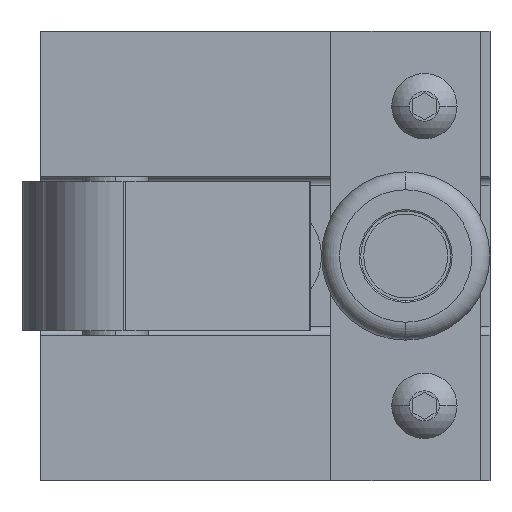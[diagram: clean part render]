
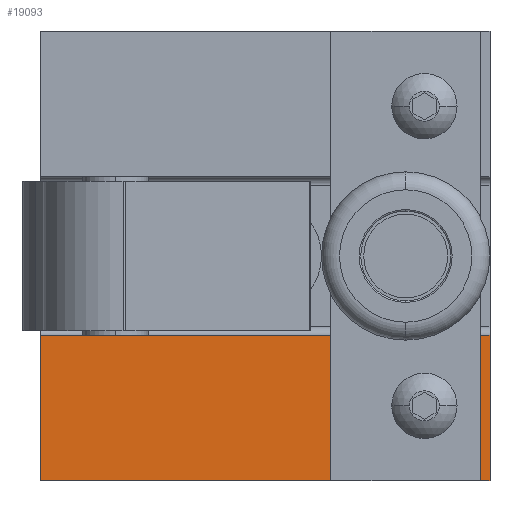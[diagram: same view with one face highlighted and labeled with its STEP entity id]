
A CAD part, left-side view. The second image highlights one B-rep face of the part: STEP entity #19093.
In plain terms, the highlighted planar face has unit normal (-1, 0, 0).
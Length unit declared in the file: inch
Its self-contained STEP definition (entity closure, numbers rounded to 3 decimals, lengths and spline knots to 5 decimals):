
#5922 = VERTEX_POINT ( 'NONE', #9534 ) ;
#5993 = VERTEX_POINT ( 'NONE', #9766 ) ;
#6092 = EDGE_CURVE ( 'NONE', #5993, #5922, #9985, .T. ) ;
#9534 = CARTESIAN_POINT ( 'NONE',  ( 5.66064, 5.77171, -2.03 ) ) ;
#9766 = CARTESIAN_POINT ( 'NONE',  ( 5.66064, 5.77171, -3. ) ) ;
#9985 = LINE ( 'NONE', #9988, #9987 ) ;
#9986 = DIRECTION ( 'NONE',  ( 0., 0., 1. ) ) ;
#9987 = VECTOR ( 'NONE', #9986, 39.37008 ) ;
#9988 = CARTESIAN_POINT ( 'NONE',  ( 5.66064, 5.77171, -3. ) ) ;
#12663 = DIRECTION ( 'NONE',  ( 0., 0., 1. ) ) ;
#12664 = DIRECTION ( 'NONE',  ( -1., 0., 0. ) ) ;
#12665 = CARTESIAN_POINT ( 'NONE',  ( 5.66064, 2.77171, -3. ) ) ;
#12666 = AXIS2_PLACEMENT_3D ( 'NONE', #12665, #12664, #12663 ) ;
#12667 = PLANE ( 'NONE',  #12666 ) ;
#12805 = CARTESIAN_POINT ( 'NONE',  ( 5.66064, 2.77171, -2.03 ) ) ;
#12806 = DIRECTION ( 'NONE',  ( 0., -1., 0. ) ) ;
#12807 = VECTOR ( 'NONE', #12806, 39.37008 ) ;
#12808 = CARTESIAN_POINT ( 'NONE',  ( 5.66064, 2.77171, -2.03 ) ) ;
#12809 = LINE ( 'NONE', #12808, #12807 ) ;
#12827 = FACE_OUTER_BOUND ( 'NONE', #19095, .T. ) ;
#13346 = VECTOR ( 'NONE', #13577, 39.37008 ) ;
#13347 = CARTESIAN_POINT ( 'NONE',  ( 5.66064, 2.77171, -3. ) ) ;
#13375 = DIRECTION ( 'NONE',  ( 0., 0., 1. ) ) ;
#13376 = VECTOR ( 'NONE', #13375, 39.37008 ) ;
#13377 = CARTESIAN_POINT ( 'NONE',  ( 5.66064, 2.77171, -3. ) ) ;
#13490 = LINE ( 'NONE', #13377, #13376 ) ;
#13577 = DIRECTION ( 'NONE',  ( 0., -1., 0. ) ) ;
#13790 = LINE ( 'NONE', #13347, #13346 ) ;
#14029 = CARTESIAN_POINT ( 'NONE',  ( 5.66064, 2.77171, -3. ) ) ;
#19093 = ADVANCED_FACE ( 'NONE', ( #12827 ), #12667, .T. ) ;
#19095 = EDGE_LOOP ( 'NONE', ( #19097, #19104, #19894, #19511 ) ) ;
#19097 = ORIENTED_EDGE ( 'NONE', *, *, #19102, .F. ) ;
#19102 = EDGE_CURVE ( 'NONE', #5922, #19103, #12809, .T. ) ;
#19103 = VERTEX_POINT ( 'NONE', #12805 ) ;
#19104 = ORIENTED_EDGE ( 'NONE', *, *, #6092, .F. ) ;
#19511 = ORIENTED_EDGE ( 'NONE', *, *, #19513, .T. ) ;
#19513 = EDGE_CURVE ( 'NONE', #19903, #19103, #13490, .T. ) ;
#19894 = ORIENTED_EDGE ( 'NONE', *, *, #19895, .T. ) ;
#19895 = EDGE_CURVE ( 'NONE', #5993, #19903, #13790, .T. ) ;
#19903 = VERTEX_POINT ( 'NONE', #14029 ) ;
